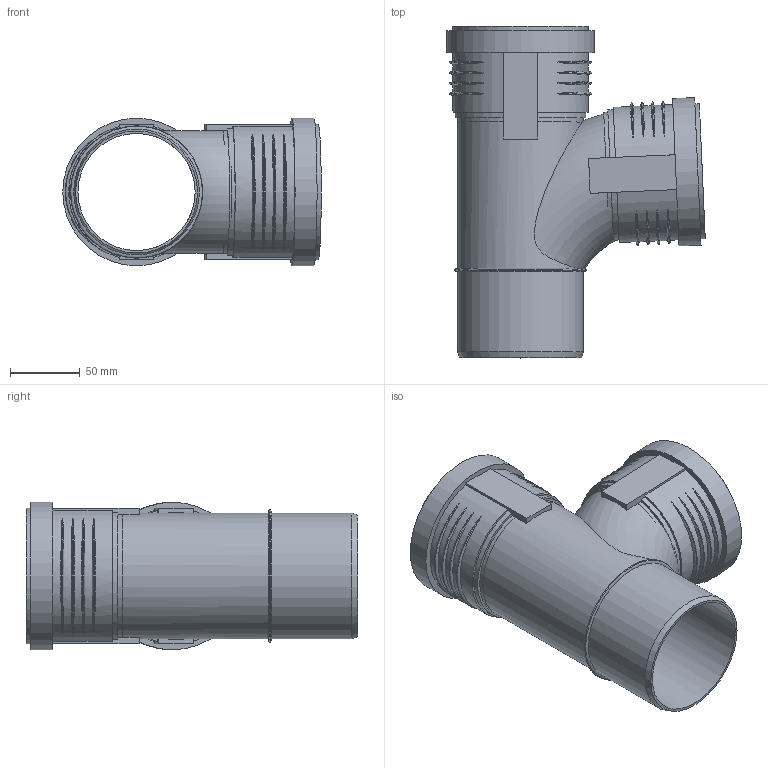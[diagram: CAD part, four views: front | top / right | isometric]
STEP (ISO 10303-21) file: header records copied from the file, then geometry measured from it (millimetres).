
FILE_DESCRIPTION(/* description */ (''),/* implementation_level */ '2;1');
FILE_NAME(/* name */ 'Z:\Geberit\Export\NewStep\390454.stp',/* time_stamp */ '2014-04-02T08:13:13+02:00',/* author */ ('ML'),/* organization */ (''),/* preprocessor_version */ 'ST-DEVELOPER v15.2',/* originating_system */ 'Autodesk Inventor 2014',/* authorisation */ '');
FILE_SCHEMA (('AUTOMOTIVE_DESIGN { 1 0 10303 214 3 1 1 }'));
Length unit declared in the file: millimetre
Products named in the file (3): 861358; 861403; 390454
Bounding box: 185.36 x 237.95 x 105.8 mm (x, y, z)
Volume: 317857.1 mm3; surface area: 213707.7 mm2
Topology: 3 solids, 3 shells, 131 faces, 314 edges, 215 vertices
Faces by surface type: torus 53, plane 44, cylinder 31, cone 3
Full cylindrical faces by diameter (mm): 84 x2, 84.2 x2, 90.2 x5, 91.2 x4, 97.2 x2, 99.8 x2, 105.8 x2
Entity records: 3132 total; most frequent: CARTESIAN_POINT 1380, DIRECTION 322, ORIENTED_EDGE 310, EDGE_CURVE 155, AXIS2_PLACEMENT_3D 143, VERTEX_POINT 115, EDGE_LOOP 114, STYLED_ITEM 78
